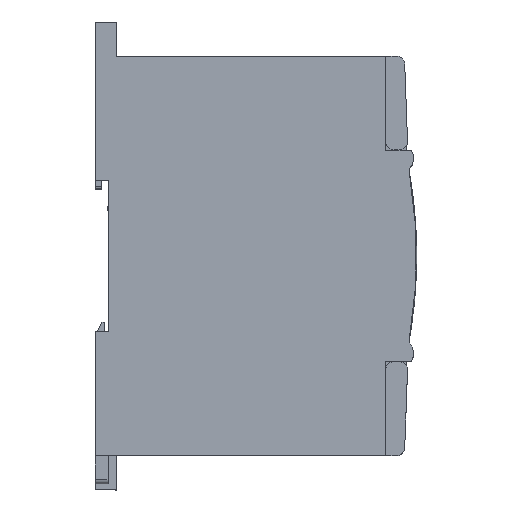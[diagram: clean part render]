
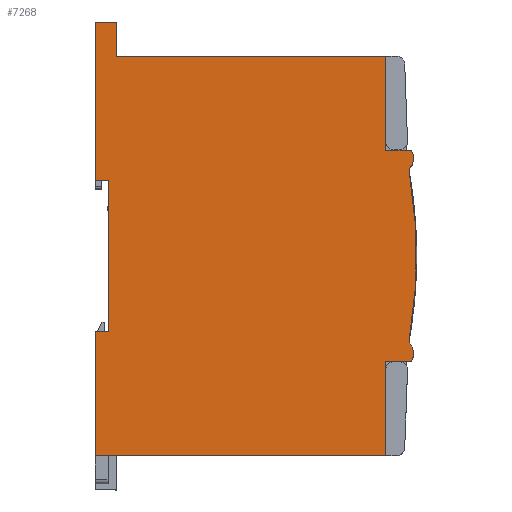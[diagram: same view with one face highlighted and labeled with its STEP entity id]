
A CAD part, top view. The second image highlights one B-rep face of the part: STEP entity #7268.
In plain terms, the highlighted planar face has unit normal (0, 0, 1) as drawn and (-1, 0, 0) by its records, which use the part's own axes.
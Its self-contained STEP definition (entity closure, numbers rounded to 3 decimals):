
#1614 = DIRECTION ( 'NONE',  ( 0., 0., -1. ) ) ;
#1676 = EDGE_CURVE ( 'NONE', #14536, #22025, #49935, .T. ) ;
#2457 = ORIENTED_EDGE ( 'NONE', *, *, #11231, .F. ) ;
#2688 = VECTOR ( 'NONE', #57791, 1000. ) ;
#2863 = ORIENTED_EDGE ( 'NONE', *, *, #3412, .F. ) ;
#3412 = EDGE_CURVE ( 'NONE', #47838, #43045, #68373, .T. ) ;
#3633 = AXIS2_PLACEMENT_3D ( 'NONE', #56237, #23584, #61690 ) ;
#4544 = ORIENTED_EDGE ( 'NONE', *, *, #31964, .T. ) ;
#4546 = CARTESIAN_POINT ( 'NONE',  ( 0., 102., -70.6 ) ) ;
#4704 = VERTEX_POINT ( 'NONE', #67188 ) ;
#6058 = CARTESIAN_POINT ( 'NONE',  ( 0., 66.487, -1.698 ) ) ;
#6181 = ORIENTED_EDGE ( 'NONE', *, *, #25836, .T. ) ;
#7268 = ADVANCED_FACE ( 'NONE', ( #22476 ), #38934, .F. ) ;
#7798 = VERTEX_POINT ( 'NONE', #41125 ) ;
#7984 = CARTESIAN_POINT ( 'NONE',  ( 0., 29.25, -75.6 ) ) ;
#8180 = VECTOR ( 'NONE', #50323, 1000. ) ;
#9356 = CARTESIAN_POINT ( 'NONE',  ( 0., 0., -7.268 ) ) ;
#9561 = EDGE_CURVE ( 'NONE', #46855, #49467, #68843, .T. ) ;
#9914 = CARTESIAN_POINT ( 'NONE',  ( 0., 71.8, -1.268 ) ) ;
#11206 = ORIENTED_EDGE ( 'NONE', *, *, #32069, .F. ) ;
#11231 = EDGE_CURVE ( 'NONE', #47133, #22339, #21312, .T. ) ;
#11593 = ORIENTED_EDGE ( 'NONE', *, *, #69193, .F. ) ;
#12565 = CARTESIAN_POINT ( 'NONE',  ( 0., 29.25, -75.6 ) ) ;
#12573 = ORIENTED_EDGE ( 'NONE', *, *, #26019, .T. ) ;
#13546 = DIRECTION ( 'NONE',  ( 0., 1., 0. ) ) ;
#14513 = EDGE_CURVE ( 'NONE', #68495, #71000, #59870, .T. ) ;
#14536 = VERTEX_POINT ( 'NONE', #51091 ) ;
#15253 = ORIENTED_EDGE ( 'NONE', *, *, #58812, .F. ) ;
#16299 = ORIENTED_EDGE ( 'NONE', *, *, #56721, .T. ) ;
#16758 = CARTESIAN_POINT ( 'NONE',  ( 0., 102., -75.6 ) ) ;
#16895 = DIRECTION ( 'NONE',  ( 1., 0., 0. ) ) ;
#17357 = CARTESIAN_POINT ( 'NONE',  ( 0., 0., -7.268 ) ) ;
#18017 = EDGE_CURVE ( 'NONE', #43045, #22025, #43750, .T. ) ;
#18890 = CARTESIAN_POINT ( 'NONE',  ( 0., 69.955, -1.724 ) ) ;
#19388 = VECTOR ( 'NONE', #24253, 1000. ) ;
#20266 = VECTOR ( 'NONE', #13546, 1000. ) ;
#21059 = AXIS2_PLACEMENT_3D ( 'NONE', #38883, #38658, #38479 ) ;
#21120 = LINE ( 'NONE', #45931, #19388 ) ;
#21312 = LINE ( 'NONE', #23249, #63125 ) ;
#21436 = VECTOR ( 'NONE', #27881, 1000. ) ;
#21586 = ORIENTED_EDGE ( 'NONE', *, *, #1676, .T. ) ;
#22025 = VERTEX_POINT ( 'NONE', #16758 ) ;
#22339 = VERTEX_POINT ( 'NONE', #9914 ) ;
#22476 = FACE_OUTER_BOUND ( 'NONE', #32304, .T. ) ;
#23249 = CARTESIAN_POINT ( 'NONE',  ( 0., 71.8, -75.6 ) ) ;
#23584 = DIRECTION ( 'NONE',  ( 1., 0., 0. ) ) ;
#23765 = CARTESIAN_POINT ( 'NONE',  ( 0., 94., -7.268 ) ) ;
#23947 = DIRECTION ( 'NONE',  ( 0., 0., 1. ) ) ;
#24253 = DIRECTION ( 'NONE',  ( 0., -1., 0. ) ) ;
#25687 = DIRECTION ( 'NONE',  ( 0., 1., 0. ) ) ;
#25836 = EDGE_CURVE ( 'NONE', #45979, #65704, #43943, .T. ) ;
#26019 = EDGE_CURVE ( 'NONE', #32239, #14536, #60976, .T. ) ;
#26381 = CARTESIAN_POINT ( 'NONE',  ( 0., 67.494, -1.705 ) ) ;
#27558 = EDGE_CURVE ( 'NONE', #22339, #65704, #70897, .T. ) ;
#27881 = DIRECTION ( 'NONE',  ( 0., 1., 0. ) ) ;
#29257 = VECTOR ( 'NONE', #25687, 1000. ) ;
#29274 = DIRECTION ( 'NONE',  ( 0., 0., -1. ) ) ;
#30199 = CARTESIAN_POINT ( 'NONE',  ( 0., 64.75, -72.4 ) ) ;
#30862 = CARTESIAN_POINT ( 'NONE',  ( 0., 94., -70.6 ) ) ;
#30885 = VECTOR ( 'NONE', #45374, 1000. ) ;
#31342 = CARTESIAN_POINT ( 'NONE',  ( 0., 29.25, -75.6 ) ) ;
#31444 = VECTOR ( 'NONE', #58628, 1000. ) ;
#31964 = EDGE_CURVE ( 'NONE', #34383, #49467, #47641, .T. ) ;
#32069 = EDGE_CURVE ( 'NONE', #34383, #50806, #53584, .T. ) ;
#32239 = VERTEX_POINT ( 'NONE', #46421 ) ;
#32304 = EDGE_LOOP ( 'NONE', ( #34362, #2863, #58827, #61242, #53211, #11206, #4544, #63631, #11593, #16299, #15253, #6181, #47963, #2457, #69626, #55641, #12573, #21586 ) ) ;
#32755 = CARTESIAN_POINT ( 'NONE',  ( 0., 47., -112.688 ) ) ;
#34362 = ORIENTED_EDGE ( 'NONE', *, *, #18017, .F. ) ;
#34383 = VERTEX_POINT ( 'NONE', #17357 ) ;
#34863 = EDGE_CURVE ( 'NONE', #71000, #47838, #63241, .T. ) ;
#35388 = DIRECTION ( 'NONE',  ( 0., 1., -0.008 ) ) ;
#35673 = CARTESIAN_POINT ( 'NONE',  ( 0., 0., -75.6 ) ) ;
#36051 = LINE ( 'NONE', #68738, #48821 ) ;
#37959 = CARTESIAN_POINT ( 'NONE',  ( 0., 71.8, -7.268 ) ) ;
#38143 = VECTOR ( 'NONE', #40949, 1000. ) ;
#38215 = DIRECTION ( 'NONE',  ( 0., 0., -1. ) ) ;
#38479 = DIRECTION ( 'NONE',  ( 0., 0., -1. ) ) ;
#38658 = DIRECTION ( 'NONE',  ( 1., 0., 0. ) ) ;
#38883 = CARTESIAN_POINT ( 'NONE',  ( 0., 69.935, -4.323 ) ) ;
#38934 = PLANE ( 'NONE',  #21059 ) ;
#39741 = DIRECTION ( 'NONE',  ( 0., 0.998, -0.06 ) ) ;
#40099 = EDGE_CURVE ( 'NONE', #32239, #62535, #36051, .T. ) ;
#40949 = DIRECTION ( 'NONE',  ( 0., 0., -1. ) ) ;
#41125 = CARTESIAN_POINT ( 'NONE',  ( 0., 26.494, -1.694 ) ) ;
#41423 = CARTESIAN_POINT ( 'NONE',  ( 0., 22.2, -1.268 ) ) ;
#41819 = CIRCLE ( 'NONE', #60743, 112.688 ) ;
#42221 = VECTOR ( 'NONE', #35388, 1000. ) ;
#42615 = CARTESIAN_POINT ( 'NONE',  ( 0., 29.25, -72.4 ) ) ;
#43045 = VERTEX_POINT ( 'NONE', #60906 ) ;
#43750 = LINE ( 'NONE', #69285, #29257 ) ;
#43943 = LINE ( 'NONE', #18890, #42221 ) ;
#45207 = LINE ( 'NONE', #66914, #57996 ) ;
#45374 = DIRECTION ( 'NONE',  ( 0., 0., 1. ) ) ;
#45931 = CARTESIAN_POINT ( 'NONE',  ( 0., 94., -7.268 ) ) ;
#45979 = VERTEX_POINT ( 'NONE', #6058 ) ;
#46191 = CIRCLE ( 'NONE', #3633, 3.579 ) ;
#46421 = CARTESIAN_POINT ( 'NONE',  ( 0., 94., -70.6 ) ) ;
#46663 = CARTESIAN_POINT ( 'NONE',  ( 0., 0., -75.6 ) ) ;
#46855 = VERTEX_POINT ( 'NONE', #52070 ) ;
#47037 = DIRECTION ( 'NONE',  ( 0., 0., 1. ) ) ;
#47133 = VERTEX_POINT ( 'NONE', #37959 ) ;
#47641 = LINE ( 'NONE', #9356, #31444 ) ;
#47838 = VERTEX_POINT ( 'NONE', #30199 ) ;
#47963 = ORIENTED_EDGE ( 'NONE', *, *, #27558, .F. ) ;
#48186 = VECTOR ( 'NONE', #1614, 1000. ) ;
#48821 = VECTOR ( 'NONE', #47037, 1000. ) ;
#49467 = VERTEX_POINT ( 'NONE', #52751 ) ;
#49635 = CARTESIAN_POINT ( 'NONE',  ( 0., 69.935, -4.323 ) ) ;
#49935 = LINE ( 'NONE', #4546, #48186 ) ;
#50323 = DIRECTION ( 'NONE',  ( 0., 0., -1. ) ) ;
#50806 = VERTEX_POINT ( 'NONE', #46663 ) ;
#51091 = CARTESIAN_POINT ( 'NONE',  ( 0., 102., -70.6 ) ) ;
#52070 = CARTESIAN_POINT ( 'NONE',  ( 0., 22.2, -1.268 ) ) ;
#52452 = EDGE_CURVE ( 'NONE', #50806, #68495, #63820, .T. ) ;
#52751 = CARTESIAN_POINT ( 'NONE',  ( 0., 22.2, -7.268 ) ) ;
#53211 = ORIENTED_EDGE ( 'NONE', *, *, #52452, .F. ) ;
#53372 = EDGE_CURVE ( 'NONE', #62535, #47133, #21120, .T. ) ;
#53584 = LINE ( 'NONE', #35673, #8180 ) ;
#53874 = VECTOR ( 'NONE', #29274, 1000. ) ;
#55117 = DIRECTION ( 'NONE',  ( 0., 0., -1. ) ) ;
#55641 = ORIENTED_EDGE ( 'NONE', *, *, #40099, .F. ) ;
#56237 = CARTESIAN_POINT ( 'NONE',  ( 0., 24.065, -4.323 ) ) ;
#56721 = EDGE_CURVE ( 'NONE', #7798, #4704, #45207, .T. ) ;
#57791 = DIRECTION ( 'NONE',  ( 0., 1., 0. ) ) ;
#57996 = VECTOR ( 'NONE', #39741, 1000. ) ;
#58628 = DIRECTION ( 'NONE',  ( 0., 1., 0. ) ) ;
#58812 = EDGE_CURVE ( 'NONE', #45979, #4704, #41819, .T. ) ;
#58827 = ORIENTED_EDGE ( 'NONE', *, *, #34863, .F. ) ;
#59870 = LINE ( 'NONE', #12565, #30885 ) ;
#60530 = CARTESIAN_POINT ( 'NONE',  ( 0., 0., -72.4 ) ) ;
#60743 = AXIS2_PLACEMENT_3D ( 'NONE', #32755, #70905, #38215 ) ;
#60906 = CARTESIAN_POINT ( 'NONE',  ( 0., 64.75, -75.6 ) ) ;
#60976 = LINE ( 'NONE', #30862, #2688 ) ;
#61242 = ORIENTED_EDGE ( 'NONE', *, *, #14513, .F. ) ;
#61690 = DIRECTION ( 'NONE',  ( 0., 0., -1. ) ) ;
#62535 = VERTEX_POINT ( 'NONE', #23765 ) ;
#63125 = VECTOR ( 'NONE', #23947, 1000. ) ;
#63241 = LINE ( 'NONE', #60530, #21436 ) ;
#63631 = ORIENTED_EDGE ( 'NONE', *, *, #9561, .F. ) ;
#63820 = LINE ( 'NONE', #7984, #20266 ) ;
#65612 = AXIS2_PLACEMENT_3D ( 'NONE', #49635, #16895, #55117 ) ;
#65704 = VERTEX_POINT ( 'NONE', #26381 ) ;
#66914 = CARTESIAN_POINT ( 'NONE',  ( 0., 69.935, -4.325 ) ) ;
#66998 = CARTESIAN_POINT ( 'NONE',  ( 0., 64.75, -72.4 ) ) ;
#67188 = CARTESIAN_POINT ( 'NONE',  ( 0., 27.268, -1.741 ) ) ;
#68373 = LINE ( 'NONE', #66998, #53874 ) ;
#68495 = VERTEX_POINT ( 'NONE', #31342 ) ;
#68738 = CARTESIAN_POINT ( 'NONE',  ( 0., 94., -7.268 ) ) ;
#68843 = LINE ( 'NONE', #41423, #38143 ) ;
#69193 = EDGE_CURVE ( 'NONE', #7798, #46855, #46191, .T. ) ;
#69285 = CARTESIAN_POINT ( 'NONE',  ( 0., 22.2, -75.6 ) ) ;
#69626 = ORIENTED_EDGE ( 'NONE', *, *, #53372, .F. ) ;
#70897 = CIRCLE ( 'NONE', #65612, 3.579 ) ;
#70905 = DIRECTION ( 'NONE',  ( 1., 0., 0. ) ) ;
#71000 = VERTEX_POINT ( 'NONE', #42615 ) ;
